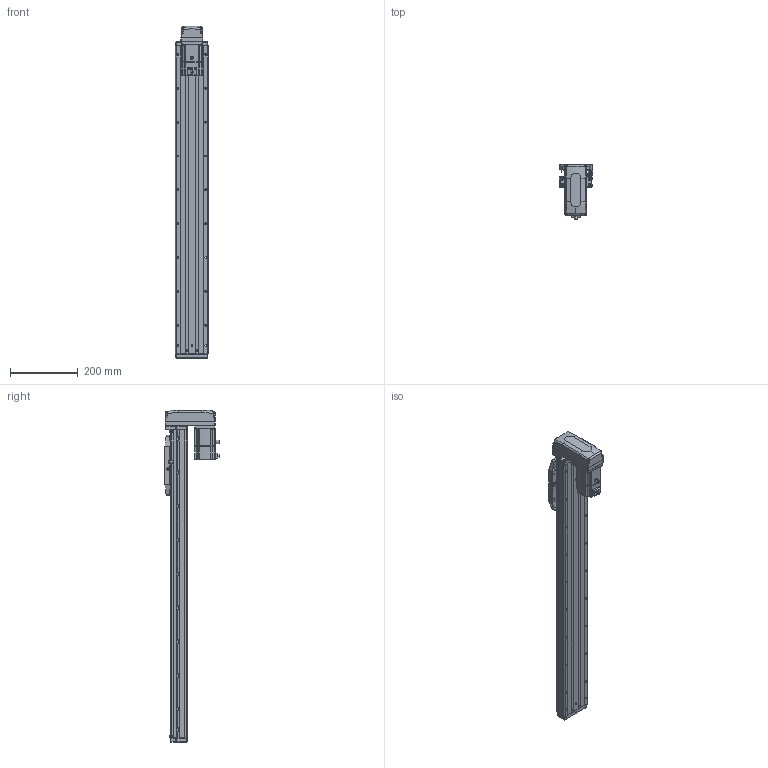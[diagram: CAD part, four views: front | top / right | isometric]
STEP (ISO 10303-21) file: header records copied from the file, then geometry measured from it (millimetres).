
FILE_DESCRIPTION (( 'STEP AP203' ), '1' );
FILE_NAME ('CTHA100-700-BM-M20-C4L.step', '2022-07-06T09:05:05', ( '微软用户' ), ( '微软中国' ), 'SwSTEP 2.0', 'SolidWorks 2020', '' );
FILE_SCHEMA (( 'CONFIG_CONTROL_DESIGN' ));
Length unit declared in the file: millimetre
Products named in the file (19): GBT77-2000 M3×3; CTHA86-030; KTHA100-004; GBT 70.1-M3℅6; GBT 70.3-M3℅6; KTHA100-005; GBT70.1 M5℅16; CTHA86-015-1_CTHA86-015-2; GB¨uT 70.2-M3¡Á5_M3¡Á6; CTHA60-016; CTHA86-033; EE_SX911P_R; _X2_4E0983F1_X0_200W_1; CTHA100-700-BM-M20-C4L; CTHA60-017; CTHA100-002; CTHA60-021; CTHA100-031; KTHA100-001_910
Assembly tree (64 placements, depth 2):
  CTHA100-700-BM-M20-C4L
    KTHA100-001_910
    KTHA100-004
    KTHA100-005
    GB¨uT 70.2-M3¡Á5_M3¡Á6  x10
    EE_SX911P_R  x3
    CTHA60-017  x3
    CTHA60-021  x2
    GBT77-2000 M3×3  x6
    GBT 70.1-M3℅6  x10
    GBT70.1 M5℅16  x14
    CTHA60-016  x2
    _X2_4E0983F1_X0_200W_1
    CTHA100-002
    CTHA100-031
    CTHA86-030  x2
    GBT 70.3-M3℅6  x4
    CTHA86-015-1_CTHA86-015-2
    CTHA86-033
Bounding box: 98.82 x 163.2 x 981 mm (x, y, z)
Volume: 4080640.5 mm3; surface area: 686799.1 mm2
Topology: 66 solids, 66 shells, 2709 faces, 6527 edges, 4048 vertices
Faces by surface type: plane 1416, cylinder 713, cone 357, torus 124, bspline 75, sphere 24
Entity records: 47284 total; most frequent: CARTESIAN_POINT 9259, DIRECTION 7314, ORIENTED_EDGE 7170, EDGE_CURVE 3585, AXIS2_PLACEMENT_3D 2475, VECTOR 2364, LINE 2364, VERTEX_POINT 2268
